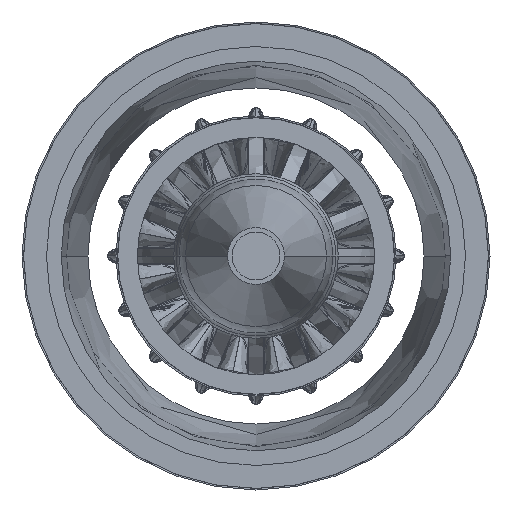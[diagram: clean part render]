
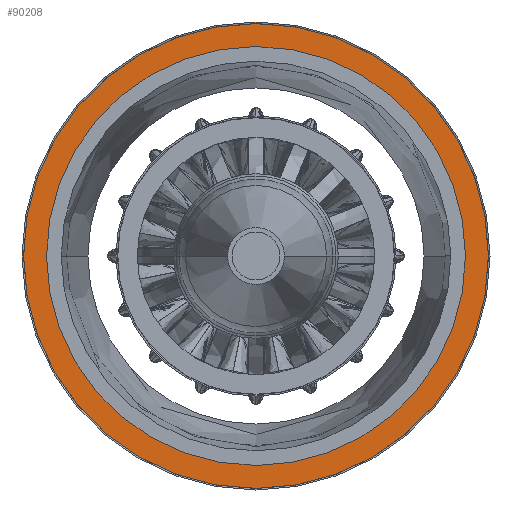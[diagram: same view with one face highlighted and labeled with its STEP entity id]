
A CAD part, left-side view. The second image highlights one B-rep face of the part: STEP entity #90208.
In plain terms, the highlighted planar face has unit normal (-1, 0, 0).
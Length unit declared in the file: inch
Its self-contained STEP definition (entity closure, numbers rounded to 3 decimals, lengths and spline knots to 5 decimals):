
#10279 = EDGE_CURVE ( 'NONE', #95163, #20942, #28815, .T. ) ;
#11243 = ORIENTED_EDGE ( 'NONE', *, *, #93703, .F. ) ;
#12550 = EDGE_CURVE ( 'NONE', #20942, #95163, #99015, .T. ) ;
#12612 = EDGE_LOOP ( 'NONE', ( #11243, #45430 ) ) ;
#13931 = PLANE ( 'NONE',  #48021 ) ;
#18563 = CARTESIAN_POINT ( 'NONE',  ( -32.04609, 0., 0. ) ) ;
#20743 = EDGE_LOOP ( 'NONE', ( #86042, #83379 ) ) ;
#20942 = VERTEX_POINT ( 'NONE', #83064 ) ;
#23985 = EDGE_CURVE ( 'NONE', #89984, #36806, #37499, .T. ) ;
#24456 = DIRECTION ( 'NONE',  ( 1., 0., 0. ) ) ;
#27777 = CARTESIAN_POINT ( 'NONE',  ( -32.04609, -0.00369, -5.53289 ) ) ;
#28815 = CIRCLE ( 'NONE', #62385, 5.5329 ) ;
#33567 = DIRECTION ( 'NONE',  ( 1., 0., 0. ) ) ;
#36806 = VERTEX_POINT ( 'NONE', #83968 ) ;
#37499 = CIRCLE ( 'NONE', #93415, 6.13918 ) ;
#37989 = CARTESIAN_POINT ( 'NONE',  ( -32.04609, 0., 0. ) ) ;
#39023 = CARTESIAN_POINT ( 'NONE',  ( -32.04609, 0., 0. ) ) ;
#40301 = AXIS2_PLACEMENT_3D ( 'NONE', #39023, #59266, #74220 ) ;
#41584 = CARTESIAN_POINT ( 'NONE',  ( -32.04609, 0.0041, 6.13918 ) ) ;
#44436 = FACE_OUTER_BOUND ( 'NONE', #12612, .T. ) ;
#45430 = ORIENTED_EDGE ( 'NONE', *, *, #23985, .F. ) ;
#48021 = AXIS2_PLACEMENT_3D ( 'NONE', #72936, #61900, #68404 ) ;
#49356 = DIRECTION ( 'NONE',  ( 1., 0., 0. ) ) ;
#56403 = CARTESIAN_POINT ( 'NONE',  ( -32.04609, 0., 0. ) ) ;
#59167 = AXIS2_PLACEMENT_3D ( 'NONE', #18563, #33567, #64560 ) ;
#59266 = DIRECTION ( 'NONE',  ( 1., 0., 0. ) ) ;
#59493 = CIRCLE ( 'NONE', #40301, 6.13918 ) ;
#61900 = DIRECTION ( 'NONE',  ( -1., 0., 0. ) ) ;
#62385 = AXIS2_PLACEMENT_3D ( 'NONE', #37989, #24456, #93500 ) ;
#64560 = DIRECTION ( 'NONE',  ( 0., -0.001, -1. ) ) ;
#68404 = DIRECTION ( 'NONE',  ( 0., 0.001, 1. ) ) ;
#72936 = CARTESIAN_POINT ( 'NONE',  ( -32.04609, 5.53289, -0.00369 ) ) ;
#74220 = DIRECTION ( 'NONE',  ( 0., -0.001, -1. ) ) ;
#79838 = DIRECTION ( 'NONE',  ( 0., -0.001, -1. ) ) ;
#82442 = FACE_BOUND ( 'NONE', #20743, .T. ) ;
#83064 = CARTESIAN_POINT ( 'NONE',  ( -32.04609, 0.00369, 5.53289 ) ) ;
#83379 = ORIENTED_EDGE ( 'NONE', *, *, #12550, .T. ) ;
#83968 = CARTESIAN_POINT ( 'NONE',  ( -32.04609, -0.0041, -6.13918 ) ) ;
#86042 = ORIENTED_EDGE ( 'NONE', *, *, #10279, .T. ) ;
#89984 = VERTEX_POINT ( 'NONE', #41584 ) ;
#90208 = ADVANCED_FACE ( 'NONE', ( #82442, #44436 ), #13931, .T. ) ;
#93415 = AXIS2_PLACEMENT_3D ( 'NONE', #56403, #49356, #79838 ) ;
#93500 = DIRECTION ( 'NONE',  ( 0., -0.001, -1. ) ) ;
#93703 = EDGE_CURVE ( 'NONE', #36806, #89984, #59493, .T. ) ;
#95163 = VERTEX_POINT ( 'NONE', #27777 ) ;
#99015 = CIRCLE ( 'NONE', #59167, 5.5329 ) ;
